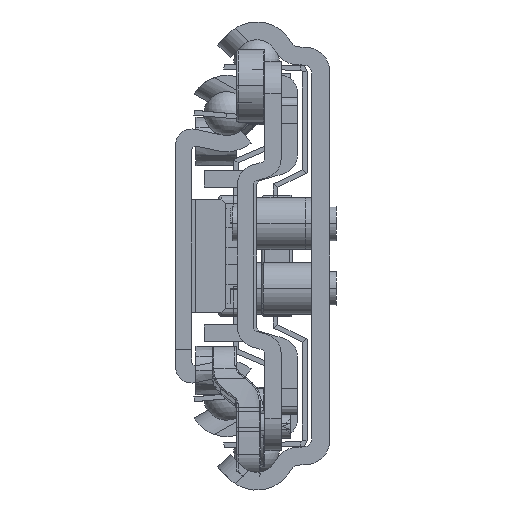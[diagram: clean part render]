
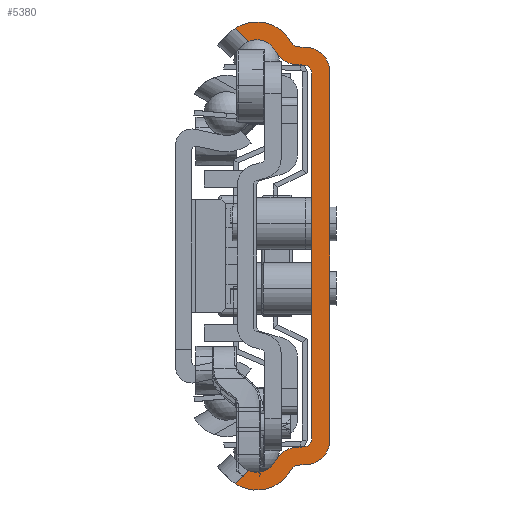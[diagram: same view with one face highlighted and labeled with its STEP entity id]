
A CAD part, left-side view. The second image highlights one B-rep face of the part: STEP entity #5380.
In plain terms, the highlighted planar face has unit normal (-1, 0, 0).
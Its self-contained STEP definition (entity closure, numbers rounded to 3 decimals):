
#1=DIRECTION('',(0.,0.717,-0.697));
#2=VECTOR('',#1,2.305);
#3=CARTESIAN_POINT('',(-500.,9.972,-26.461));
#4=LINE('',#3,#2);
#5=CARTESIAN_POINT('',(-500.,9.,-24.05));
#6=DIRECTION('',(-1.,0.,0.));
#7=DIRECTION('',(0.,0.374,-0.927));
#8=AXIS2_PLACEMENT_3D('',#5,#6,#7);
#10=CARTESIAN_POINT('',(-500.,4.005,-26.582));
#11=DIRECTION('',(-1.,0.,0.));
#12=DIRECTION('',(0.,0.07,0.998));
#13=AXIS2_PLACEMENT_3D('',#10,#11,#12);
#15=DIRECTION('',(0.,-0.998,0.07));
#16=VECTOR('',#15,1.087);
#17=CARTESIAN_POINT('',(-500.,4.214,-23.589));
#18=LINE('',#17,#16);
#19=DIRECTION('',(0.,0.,1.));
#20=VECTOR('',#19,45.032);
#21=CARTESIAN_POINT('',(-500.,2.2,-22.516));
#22=LINE('',#21,#20);
#23=DIRECTION('',(0.,0.998,0.07));
#24=VECTOR('',#23,1.087);
#25=CARTESIAN_POINT('',(-500.,3.13,23.514));
#26=LINE('',#25,#24);
#27=CARTESIAN_POINT('',(-500.,4.005,26.582));
#28=DIRECTION('',(-1.,0.,0.));
#29=DIRECTION('',(0.,0.892,-0.452));
#30=AXIS2_PLACEMENT_3D('',#27,#28,#29);
#32=CARTESIAN_POINT('',(-500.,9.,24.05));
#33=DIRECTION('',(-1.,0.,0.));
#34=DIRECTION('',(0.,-0.892,0.452));
#35=AXIS2_PLACEMENT_3D('',#32,#33,#34);
#37=DIRECTION('',(0.,-0.717,-0.697));
#38=VECTOR('',#37,2.305);
#39=CARTESIAN_POINT('',(-500.,11.624,28.069));
#40=LINE('',#39,#38);
#41=CARTESIAN_POINT('',(-500.,9.,24.05));
#42=DIRECTION('',(1.,0.,0.));
#43=DIRECTION('',(0.,0.547,0.837));
#44=AXIS2_PLACEMENT_3D('',#41,#42,#43);
#46=DIRECTION('',(0.,-0.998,-0.07));
#47=VECTOR('',#46,1.161);
#48=CARTESIAN_POINT('',(-500.,3.949,25.776));
#49=LINE('',#48,#47);
#50=CARTESIAN_POINT('',(-500.,3.,22.702));
#51=DIRECTION('',(-1.,0.,0.));
#52=DIRECTION('',(0.,-1.,0.));
#53=AXIS2_PLACEMENT_3D('',#50,#51,#52);
#55=DIRECTION('',(0.,0.,-1.));
#56=VECTOR('',#55,45.405);
#57=CARTESIAN_POINT('',(-500.,0.,22.702));
#58=LINE('',#57,#56);
#59=CARTESIAN_POINT('',(-500.,3.,-22.702));
#60=DIRECTION('',(-1.,0.,0.));
#61=DIRECTION('',(0.,-0.07,-0.998));
#62=AXIS2_PLACEMENT_3D('',#59,#60,#61);
#64=DIRECTION('',(0.,0.998,-0.07));
#65=VECTOR('',#64,1.161);
#66=CARTESIAN_POINT('',(-500.,2.791,-25.695));
#67=LINE('',#66,#65);
#68=CARTESIAN_POINT('',(-500.,9.,-24.05));
#69=DIRECTION('',(1.,0.,0.));
#70=DIRECTION('',(0.,-0.883,-0.47));
#71=AXIS2_PLACEMENT_3D('',#68,#69,#70);
#79=CARTESIAN_POINT('',(-500.,11.624,-28.069));
#103=CARTESIAN_POINT('',(-500.,9.972,-26.461));
#195=CARTESIAN_POINT('',(-500.,11.624,28.069));
#201=CARTESIAN_POINT('',(-500.,3.879,26.774));
#202=DIRECTION('',(1.,0.,0.));
#203=DIRECTION('',(0.,0.07,-0.998));
#204=AXIS2_PLACEMENT_3D('',#201,#202,#203);
#1227=CARTESIAN_POINT('',(-500.,3.879,-26.774));
#1228=DIRECTION('',(1.,0.,0.));
#1229=DIRECTION('',(0.,0.883,0.47));
#1230=AXIS2_PLACEMENT_3D('',#1227,#1228,#1229);
#2322=CARTESIAN_POINT('',(-500.,3.2,-22.516));
#2323=DIRECTION('',(1.,0.,0.));
#2324=DIRECTION('',(0.,-1.,0.));
#2325=AXIS2_PLACEMENT_3D('',#2322,#2323,#2324);
#2340=CARTESIAN_POINT('',(-500.,3.2,22.516));
#2341=DIRECTION('',(1.,0.,0.));
#2342=DIRECTION('',(0.,-0.07,0.998));
#2343=AXIS2_PLACEMENT_3D('',#2340,#2341,#2342);
#2364=CARTESIAN_POINT('',(-500.,9.972,26.461));
#4197=CARTESIAN_POINT('',(-500.,2.2,-22.516));
#4199=VERTEX_POINT('',#4197);
#4201=CARTESIAN_POINT('',(-500.,3.13,-23.514));
#4203=VERTEX_POINT('',#4201);
#4205=CARTESIAN_POINT('',(-500.,3.13,23.514));
#4207=VERTEX_POINT('',#4205);
#4209=CARTESIAN_POINT('',(-500.,2.2,22.516));
#4211=VERTEX_POINT('',#4209);
#4213=CARTESIAN_POINT('',(-500.,3.949,25.776));
#4215=VERTEX_POINT('',#4213);
#4217=CARTESIAN_POINT('',(-500.,4.762,26.304));
#4219=VERTEX_POINT('',#4217);
#4221=CARTESIAN_POINT('',(-500.,4.762,-26.304));
#4223=VERTEX_POINT('',#4221);
#4225=CARTESIAN_POINT('',(-500.,3.949,-25.776));
#4227=VERTEX_POINT('',#4225);
#4229=CARTESIAN_POINT('',(-500.,4.214,-23.589));
#4230=CARTESIAN_POINT('',(-500.,6.681,-25.226));
#4231=VERTEX_POINT('',#4229);
#4232=VERTEX_POINT('',#4230);
#4237=CARTESIAN_POINT('',(-500.,6.681,25.226));
#4238=CARTESIAN_POINT('',(-500.,4.214,23.589));
#4239=VERTEX_POINT('',#4237);
#4240=VERTEX_POINT('',#4238);
#4245=CARTESIAN_POINT('',(-500.,0.,22.702));
#4246=CARTESIAN_POINT('',(-500.,2.791,25.695));
#4247=VERTEX_POINT('',#4245);
#4248=VERTEX_POINT('',#4246);
#4253=CARTESIAN_POINT('',(-500.,2.791,-25.695));
#4254=CARTESIAN_POINT('',(-500.,0.,-22.702));
#4255=VERTEX_POINT('',#4253);
#4256=VERTEX_POINT('',#4254);
#4603=VERTEX_POINT('',#79);
#4611=VERTEX_POINT('',#103);
#4612=VERTEX_POINT('',#2364);
#4620=VERTEX_POINT('',#195);
#5333=CARTESIAN_POINT('',(-500.,0.,0.));
#5334=DIRECTION('',(1.,0.,0.));
#5335=DIRECTION('',(0.,-1.,0.));
#5336=AXIS2_PLACEMENT_3D('',#5333,#5334,#5335);
#5337=PLANE('',#5336);
#5339=ORIENTED_EDGE('',*,*,#5338,.F.);
#5341=ORIENTED_EDGE('',*,*,#5340,.T.);
#5343=ORIENTED_EDGE('',*,*,#5342,.F.);
#5345=ORIENTED_EDGE('',*,*,#5344,.T.);
#5347=ORIENTED_EDGE('',*,*,#5346,.F.);
#5349=ORIENTED_EDGE('',*,*,#5348,.T.);
#5351=ORIENTED_EDGE('',*,*,#5350,.F.);
#5353=ORIENTED_EDGE('',*,*,#5352,.T.);
#5355=ORIENTED_EDGE('',*,*,#5354,.F.);
#5357=ORIENTED_EDGE('',*,*,#5356,.T.);
#5359=ORIENTED_EDGE('',*,*,#5358,.F.);
#5361=ORIENTED_EDGE('',*,*,#5360,.T.);
#5363=ORIENTED_EDGE('',*,*,#5362,.F.);
#5365=ORIENTED_EDGE('',*,*,#5364,.T.);
#5367=ORIENTED_EDGE('',*,*,#5366,.F.);
#5369=ORIENTED_EDGE('',*,*,#5368,.T.);
#5371=ORIENTED_EDGE('',*,*,#5370,.F.);
#5373=ORIENTED_EDGE('',*,*,#5372,.T.);
#5375=ORIENTED_EDGE('',*,*,#5374,.F.);
#5377=ORIENTED_EDGE('',*,*,#5376,.T.);
#5378=EDGE_LOOP('',(#5339,#5341,#5343,#5345,#5347,#5349,#5351,#5353,#5355,#5357,
#5359,#5361,#5363,#5365,#5367,#5369,#5371,#5373,#5375,#5377));
#5379=FACE_OUTER_BOUND('',#5378,.F.);
#5380=ADVANCED_FACE('',(#5379),#5337,.F.);
#9=CIRCLE('',#8,2.6);
#14=CIRCLE('',#13,3.);
#31=CIRCLE('',#30,3.);
#36=CIRCLE('',#35,2.6);
#45=CIRCLE('',#44,4.8);
#54=CIRCLE('',#53,3.);
#63=CIRCLE('',#62,3.);
#72=CIRCLE('',#71,4.8);
#205=CIRCLE('',#204,1.);
#1231=CIRCLE('',#1230,1.);
#2326=CIRCLE('',#2325,1.);
#2344=CIRCLE('',#2343,1.);
#5338=EDGE_CURVE('',#4611,#4603,#4,.T.);
#5340=EDGE_CURVE('',#4611,#4232,#9,.T.);
#5342=EDGE_CURVE('',#4231,#4232,#14,.T.);
#5344=EDGE_CURVE('',#4231,#4203,#18,.T.);
#5346=EDGE_CURVE('',#4199,#4203,#2326,.T.);
#5348=EDGE_CURVE('',#4199,#4211,#22,.T.);
#5350=EDGE_CURVE('',#4207,#4211,#2344,.T.);
#5352=EDGE_CURVE('',#4207,#4240,#26,.T.);
#5354=EDGE_CURVE('',#4239,#4240,#31,.T.);
#5356=EDGE_CURVE('',#4239,#4612,#36,.T.);
#5358=EDGE_CURVE('',#4620,#4612,#40,.T.);
#5360=EDGE_CURVE('',#4620,#4219,#45,.T.);
#5362=EDGE_CURVE('',#4215,#4219,#205,.T.);
#5364=EDGE_CURVE('',#4215,#4248,#49,.T.);
#5366=EDGE_CURVE('',#4247,#4248,#54,.T.);
#5368=EDGE_CURVE('',#4247,#4256,#58,.T.);
#5370=EDGE_CURVE('',#4255,#4256,#63,.T.);
#5372=EDGE_CURVE('',#4255,#4227,#67,.T.);
#5374=EDGE_CURVE('',#4223,#4227,#1231,.T.);
#5376=EDGE_CURVE('',#4223,#4603,#72,.T.);
